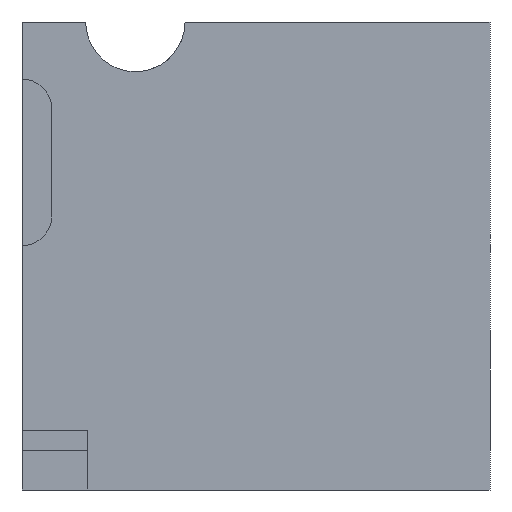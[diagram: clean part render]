
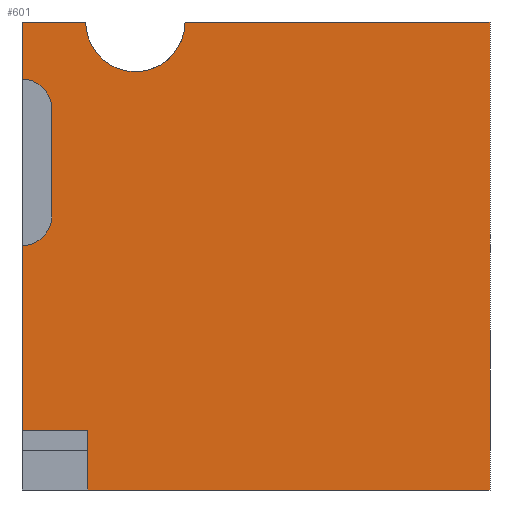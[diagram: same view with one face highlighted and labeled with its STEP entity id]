
A CAD part, front view. The second image highlights one B-rep face of the part: STEP entity #601.
In plain terms, the highlighted planar face has unit normal (0, -1, 0).
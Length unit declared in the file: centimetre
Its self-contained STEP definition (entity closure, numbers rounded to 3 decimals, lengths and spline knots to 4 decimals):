
#18 = EDGE_CURVE ( 'NONE', #509, #558, #79, .T. ) ;
#21 = PLANE ( 'NONE',  #493 ) ;
#31 = EDGE_CURVE ( 'NONE', #679, #441, #762, .T. ) ;
#46 = CARTESIAN_POINT ( 'NONE',  ( 63.514, 0., 585.5485 ) ) ;
#49 = DIRECTION ( 'NONE',  ( 1., 0., 0. ) ) ;
#68 = EDGE_LOOP ( 'NONE', ( #358, #107, #435, #216, #426, #210, #506, #724, #394, #211, #906, #154, #147 ) ) ;
#70 = CARTESIAN_POINT ( 'NONE',  ( 348.3825, 0., 1000. ) ) ;
#72 = VERTEX_POINT ( 'NONE', #835 ) ;
#74 = EDGE_CURVE ( 'NONE', #72, #218, #391, .T. ) ;
#79 = LINE ( 'NONE', #380, #923 ) ;
#107 = ORIENTED_EDGE ( 'NONE', *, *, #31, .F. ) ;
#110 = CARTESIAN_POINT ( 'NONE',  ( 242.2388, 0., 1000. ) ) ;
#117 = EDGE_CURVE ( 'NONE', #233, #300, #769, .T. ) ;
#138 = DIRECTION ( 'NONE',  ( 0., 0., 1. ) ) ;
#145 = VERTEX_POINT ( 'NONE', #602 ) ;
#147 = ORIENTED_EDGE ( 'NONE', *, *, #822, .F. ) ;
#151 = CARTESIAN_POINT ( 'NONE',  ( 136.095, 0., 1000. ) ) ;
#154 = ORIENTED_EDGE ( 'NONE', *, *, #483, .T. ) ;
#166 = EDGE_CURVE ( 'NONE', #218, #214, #531, .T. ) ;
#172 = CARTESIAN_POINT ( 'NONE',  ( 0., 0., 522.0345 ) ) ;
#174 = DIRECTION ( 'NONE',  ( 0., -1., 0. ) ) ;
#181 = AXIS2_PLACEMENT_3D ( 'NONE', #799, #417, #138 ) ;
#195 = LINE ( 'NONE', #572, #848 ) ;
#210 = ORIENTED_EDGE ( 'NONE', *, *, #345, .F. ) ;
#211 = ORIENTED_EDGE ( 'NONE', *, *, #166, .F. ) ;
#214 = VERTEX_POINT ( 'NONE', #412 ) ;
#216 = ORIENTED_EDGE ( 'NONE', *, *, #525, .F. ) ;
#218 = VERTEX_POINT ( 'NONE', #701 ) ;
#228 = EDGE_CURVE ( 'NONE', #441, #145, #264, .T. ) ;
#233 = VERTEX_POINT ( 'NONE', #46 ) ;
#236 = DIRECTION ( 'NONE',  ( 0., 0., 1. ) ) ;
#248 = DIRECTION ( 'NONE',  ( 0., 1., 0. ) ) ;
#252 = DIRECTION ( 'NONE',  ( 0., 1., 0. ) ) ;
#264 = LINE ( 'NONE', #555, #871 ) ;
#275 = CARTESIAN_POINT ( 'NONE',  ( 1000., 0., 0. ) ) ;
#295 = DIRECTION ( 'NONE',  ( 0., 0., -1. ) ) ;
#300 = VERTEX_POINT ( 'NONE', #424 ) ;
#319 = CIRCLE ( 'NONE', #684, 63.514 ) ;
#323 = DIRECTION ( 'NONE',  ( 0., 0., 1. ) ) ;
#345 = EDGE_CURVE ( 'NONE', #300, #558, #911, .T. ) ;
#349 = VECTOR ( 'NONE', #796, 100. ) ;
#358 = ORIENTED_EDGE ( 'NONE', *, *, #228, .F. ) ;
#367 = CARTESIAN_POINT ( 'NONE',  ( 0., 0., 0. ) ) ;
#380 = CARTESIAN_POINT ( 'NONE',  ( 0., 0., 1000. ) ) ;
#391 = LINE ( 'NONE', #459, #421 ) ;
#394 = ORIENTED_EDGE ( 'NONE', *, *, #405, .T. ) ;
#404 = CARTESIAN_POINT ( 'NONE',  ( 63.514, 0., 814.2932 ) ) ;
#405 = EDGE_CURVE ( 'NONE', #961, #214, #195, .T. ) ;
#412 = CARTESIAN_POINT ( 'NONE',  ( 0., 0., 126.5278 ) ) ;
#417 = DIRECTION ( 'NONE',  ( 0., -1., 0. ) ) ;
#421 = VECTOR ( 'NONE', #914, 100. ) ;
#424 = CARTESIAN_POINT ( 'NONE',  ( 63.514, 0., 814.2932 ) ) ;
#426 = ORIENTED_EDGE ( 'NONE', *, *, #18, .T. ) ;
#429 = CARTESIAN_POINT ( 'NONE',  ( 0., 0., 1000. ) ) ;
#435 = ORIENTED_EDGE ( 'NONE', *, *, #630, .F. ) ;
#439 = DIRECTION ( 'NONE',  ( 0., 0., -1. ) ) ;
#441 = VERTEX_POINT ( 'NONE', #70 ) ;
#459 = CARTESIAN_POINT ( 'NONE',  ( 140.384, 0., 0. ) ) ;
#467 = VERTEX_POINT ( 'NONE', #151 ) ;
#470 = CARTESIAN_POINT ( 'NONE',  ( 0., 0., 1000. ) ) ;
#480 = VECTOR ( 'NONE', #949, 100. ) ;
#483 = EDGE_CURVE ( 'NONE', #72, #819, #516, .T. ) ;
#489 = CARTESIAN_POINT ( 'NONE',  ( 1000., 0., 1000. ) ) ;
#491 = VECTOR ( 'NONE', #681, 100. ) ;
#493 = AXIS2_PLACEMENT_3D ( 'NONE', #470, #252, #904 ) ;
#506 = ORIENTED_EDGE ( 'NONE', *, *, #117, .F. ) ;
#509 = VERTEX_POINT ( 'NONE', #825 ) ;
#516 = LINE ( 'NONE', #367, #621 ) ;
#525 = EDGE_CURVE ( 'NONE', #509, #467, #746, .T. ) ;
#526 = FACE_OUTER_BOUND ( 'NONE', #68, .T. ) ;
#531 = LINE ( 'NONE', #536, #491 ) ;
#536 = CARTESIAN_POINT ( 'NONE',  ( 0., 0., 126.5278 ) ) ;
#555 = CARTESIAN_POINT ( 'NONE',  ( 0., 0., 1000. ) ) ;
#558 = VERTEX_POINT ( 'NONE', #614 ) ;
#572 = CARTESIAN_POINT ( 'NONE',  ( 0., 0., 1000. ) ) ;
#580 = DIRECTION ( 'NONE',  ( 1., 0., 0. ) ) ;
#598 = DIRECTION ( 'NONE',  ( 0., -1., 0. ) ) ;
#601 = ADVANCED_FACE ( 'NONE', ( #526 ), #21, .F. ) ;
#602 = CARTESIAN_POINT ( 'NONE',  ( 1000., 0., 1000. ) ) ;
#614 = CARTESIAN_POINT ( 'NONE',  ( 0., 0., 877.8072 ) ) ;
#618 = CARTESIAN_POINT ( 'NONE',  ( 0., 0., 585.5485 ) ) ;
#620 = DIRECTION ( 'NONE',  ( 0., 0., -1. ) ) ;
#621 = VECTOR ( 'NONE', #580, 100. ) ;
#630 = EDGE_CURVE ( 'NONE', #467, #679, #940, .T. ) ;
#673 = EDGE_CURVE ( 'NONE', #233, #961, #319, .T. ) ;
#679 = VERTEX_POINT ( 'NONE', #919 ) ;
#681 = DIRECTION ( 'NONE',  ( -1., 0., 0. ) ) ;
#684 = AXIS2_PLACEMENT_3D ( 'NONE', #618, #248, #236 ) ;
#691 = DIRECTION ( 'NONE',  ( 0., 0., -1. ) ) ;
#701 = CARTESIAN_POINT ( 'NONE',  ( 140.384, 0., 126.5278 ) ) ;
#712 = AXIS2_PLACEMENT_3D ( 'NONE', #844, #174, #620 ) ;
#724 = ORIENTED_EDGE ( 'NONE', *, *, #673, .T. ) ;
#746 = LINE ( 'NONE', #429, #480 ) ;
#747 = AXIS2_PLACEMENT_3D ( 'NONE', #110, #598, #691 ) ;
#762 = CIRCLE ( 'NONE', #712, 106.1438 ) ;
#769 = LINE ( 'NONE', #404, #891 ) ;
#796 = DIRECTION ( 'NONE',  ( 0., 0., -1. ) ) ;
#799 = CARTESIAN_POINT ( 'NONE',  ( 0., 0., 814.2932 ) ) ;
#819 = VERTEX_POINT ( 'NONE', #275 ) ;
#822 = EDGE_CURVE ( 'NONE', #145, #819, #933, .T. ) ;
#825 = CARTESIAN_POINT ( 'NONE',  ( 0., 0., 1000. ) ) ;
#835 = CARTESIAN_POINT ( 'NONE',  ( 140.384, 0., 0. ) ) ;
#844 = CARTESIAN_POINT ( 'NONE',  ( 242.2388, 0., 1000. ) ) ;
#848 = VECTOR ( 'NONE', #439, 100. ) ;
#871 = VECTOR ( 'NONE', #49, 100. ) ;
#891 = VECTOR ( 'NONE', #323, 100. ) ;
#904 = DIRECTION ( 'NONE',  ( 0., 0., 1. ) ) ;
#906 = ORIENTED_EDGE ( 'NONE', *, *, #74, .F. ) ;
#911 = CIRCLE ( 'NONE', #181, 63.514 ) ;
#914 = DIRECTION ( 'NONE',  ( 0., 0., 1. ) ) ;
#919 = CARTESIAN_POINT ( 'NONE',  ( 242.2388, 0., 893.8562 ) ) ;
#923 = VECTOR ( 'NONE', #295, 100. ) ;
#933 = LINE ( 'NONE', #489, #349 ) ;
#940 = CIRCLE ( 'NONE', #747, 106.1438 ) ;
#949 = DIRECTION ( 'NONE',  ( 1., 0., 0. ) ) ;
#961 = VERTEX_POINT ( 'NONE', #172 ) ;
